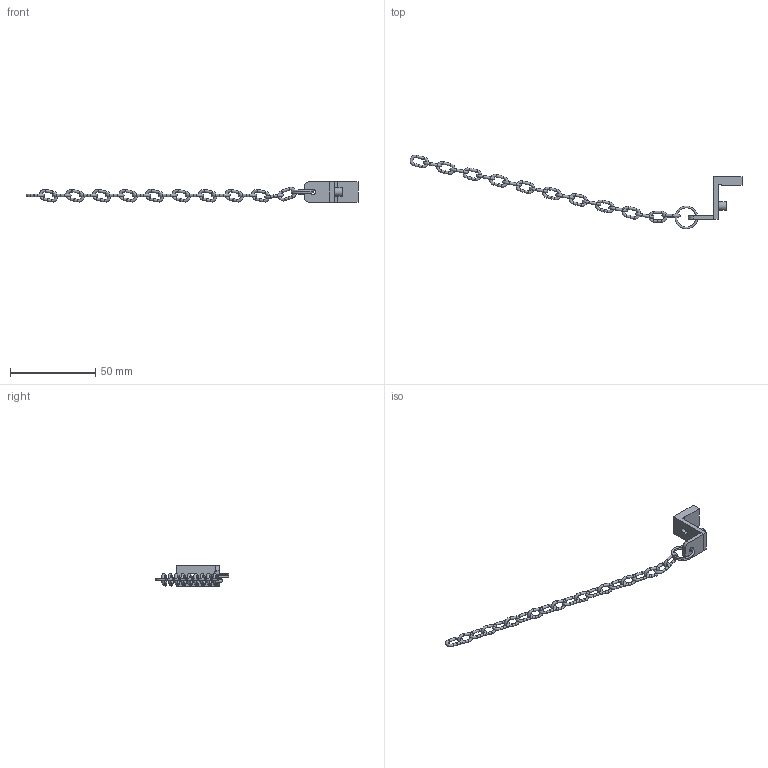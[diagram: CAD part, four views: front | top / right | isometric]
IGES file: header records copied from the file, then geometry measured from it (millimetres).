
Global section: file name: 100.00; native system: Autodesk Inventor 2014; preprocessor: unknown; author: APto; date: 20150518.162447; units: millimetre
Bounding box: 194.73 x 43.26 x 12 mm (x, y, z)
Volume: 2931.7 mm3; surface area: 4479.4 mm2
Topology: 24 solids, 24 shells, 171 faces, 288 edges, 165 vertices
Faces by surface type: bspline 171
